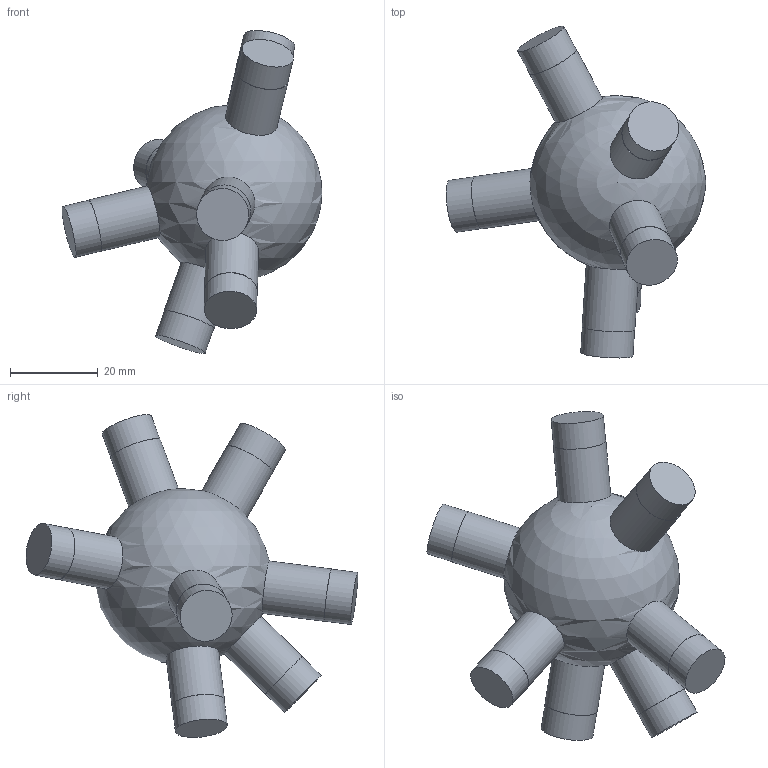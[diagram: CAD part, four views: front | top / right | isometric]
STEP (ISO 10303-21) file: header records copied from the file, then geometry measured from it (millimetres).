
FILE_DESCRIPTION(('Open CASCADE Model'),'2;1');
FILE_NAME('Open CASCADE Shape Model','2026-10-21T12:47:57',('Author'),( 'Open CASCADE'),'Open CASCADE STEP processor 7.9','Open CASCADE 7.9' ,'Unknown');
FILE_SCHEMA(('AUTOMOTIVE_DESIGN { 1 0 10303 214 1 1 1 1 }'));
Length unit declared in the file: millimetre
Products named in the file (1): Open CASCADE STEP translator 7.9 66
Bounding box: 59.06 x 75.45 x 73.4 mm (x, y, z)
Volume: 48017.9 mm3; surface area: 9979.3 mm2
Topology: 1 solids, 1 shells, 29 faces, 45 edges, 30 vertices
Faces by surface type: cylinder 14, plane 14, sphere 1
Full cylindrical faces by diameter (mm): 11.9 x7, 12 x7
Entity records: 1757 total; most frequent: CARTESIAN_POINT 752, DIRECTION 207, ORIENTED_EDGE 84, PCURVE 84, DEFINITIONAL_REPRESENTATION 84, LINE 70, VECTOR 70, AXIS2_PLACEMENT_3D 58
